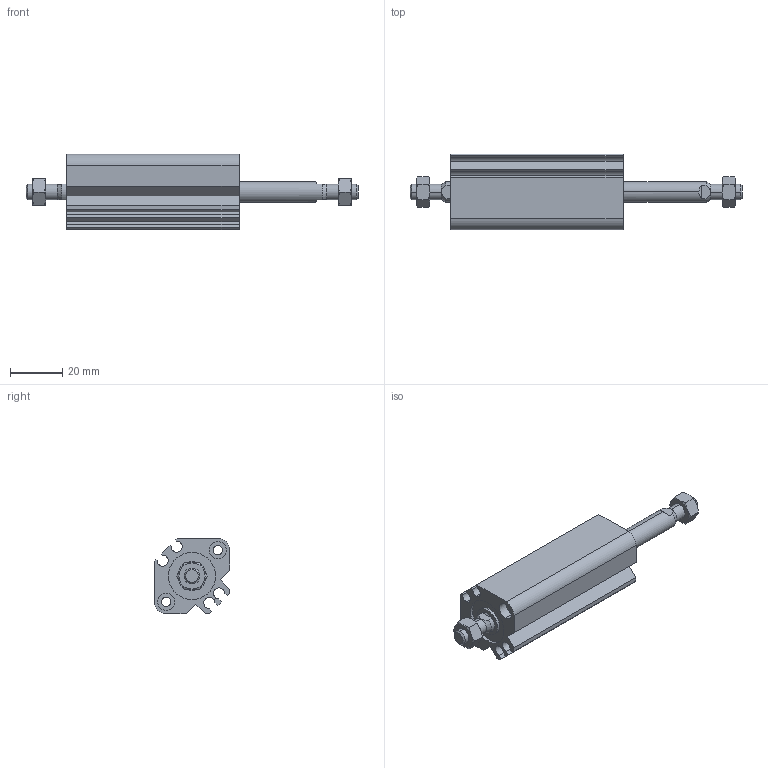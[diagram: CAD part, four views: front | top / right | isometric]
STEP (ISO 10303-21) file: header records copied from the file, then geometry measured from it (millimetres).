
FILE_DESCRIPTION (( 'STEP AP203' ), '1' );
FILE_NAME ('CCMB16-30M-P.STEP', '2020-08-10T11:07:22', ( '' ), ( '' ), 'SwSTEP 2.0', 'SolidWorks 2019', '' );
FILE_SCHEMA (( 'CONFIG_CONTROL_DESIGN' ));
Length unit declared in the file: millimetre
Products named in the file (1): CCMB16-30M-P
Bounding box: 127 x 29 x 29 mm (x, y, z)
Volume: 40608.5 mm3; surface area: 20275.9 mm2
Topology: 4 solids, 4 shells, 166 faces, 384 edges, 240 vertices
Faces by surface type: plane 66, cylinder 56, cone 44
Entity records: 5239 total; most frequent: CARTESIAN_POINT 1379, DIRECTION 806, ORIENTED_EDGE 768, EDGE_CURVE 384, AXIS2_PLACEMENT_3D 319, VERTEX_POINT 240, EDGE_LOOP 190, LINE 168
